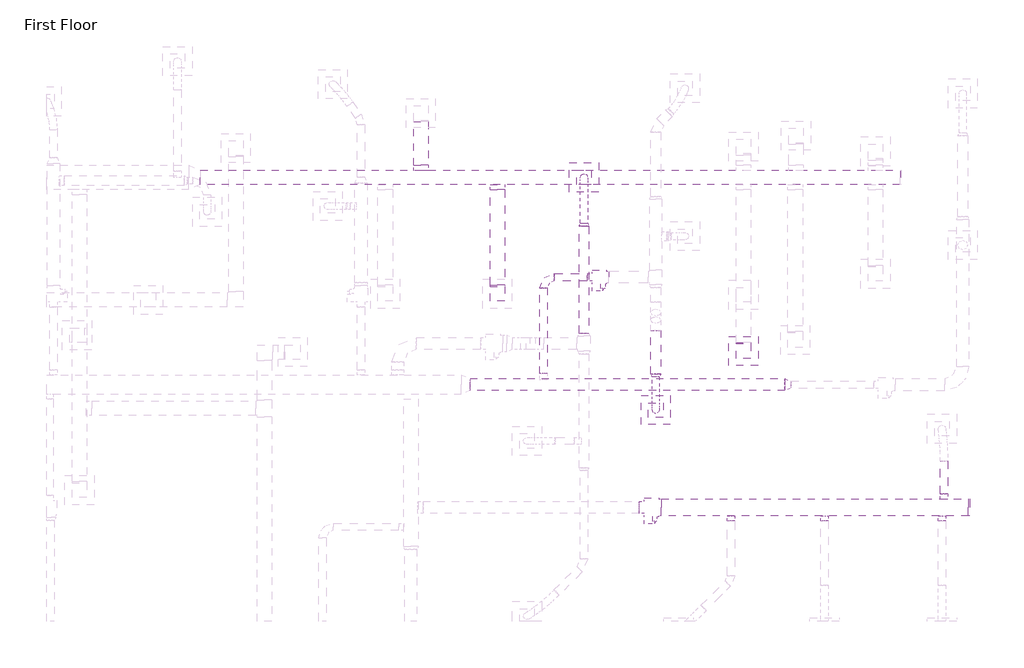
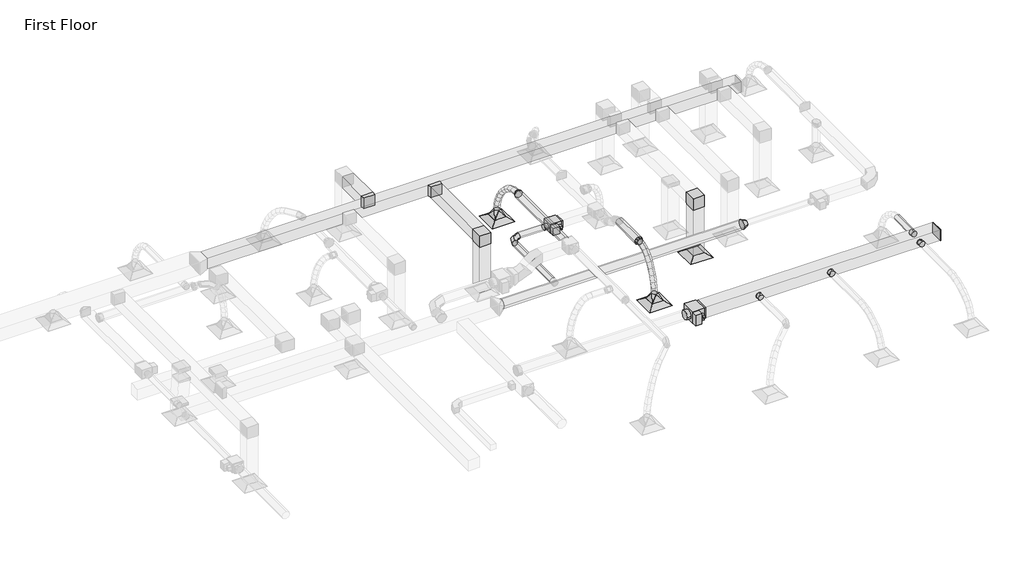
# One storey, part 56 of 61: 15 duct fittings, 14 duct segments, 3 air terminals, 2 proxies.
"""IFC4 building model written with IfcOpenShell, lengths in millimetres."""

from ifc_helpers import new_model, si_unit, point, frame, frame_2d, origin, place, context, project, spatial, polyline, circle_curve, ellipse_curve, trimmed, segment, composite_curve, outline, extrude, transform, mapped, element, save
from ifc_brep_helpers import plane_surface, cylinder_surface, advanced_brep
from components import m_exhaust_grill_er_600_x_600_face_300_x_300_connection_ff221211, m_vav_unit_single_duct_150_mm_ffdab17b, m_vav_unit_single_duct_250_mm_b14a1009, m_rectangular_elbow_mitered_standard_8eee5933, m_rectangular_endcap_standard_7e805889, m_rectangular_takeoff_standard_c00386d1, m_rectangular_takeoff_standard_b44bfa45, m_rectangular_to_round_transition_angle_45_degree_8f201c83, m_round_elbow_1_5_d_2e586196, m_round_takeoff_standard_d02f3bf7, m_round_takeoff_standard_2721f8a4, m_round_transition_angle_45_degree_6d7b59ce, m_round_transition_angle_45_degree_25573e05

model = new_model("IFC4")

# Units and contexts
model_context = context("Model", 3, world=origin())
ifc_project = project(units=[si_unit("LENGTHUNIT", "METRE", prefix="MILLI")], contexts=[model_context])

# Site, building, storey
site = spatial("IfcSite", under=ifc_project)
building = spatial("IfcBuilding", under=site)
storey = spatial("IfcBuildingStorey", under=building, Name="First Floor", Elevation=0.0)

# Air terminals
placement = place(None, origin())
m_exhaust_grill_er_600_x_600_face_300_x_300_connection_shape = m_exhaust_grill_er_600_x_600_face_300_x_300_connection_ff221211(model_context)
element("IfcAirTerminal", 1, ObjectType="M_Return Register : RR-600 x 600 Face 300 x 300 Connection", at=placement, inside=storey, context=model_context, shape_type="MappedRepresentation", body=[
    mapped(m_exhaust_grill_er_600_x_600_face_300_x_300_connection_shape, transform((-5002.6412206, 43647.3194717, 2680.0), x_axis=(1.0, 0.0, 0.0), y_axis=(0.0, 1.0, 0.0), z_axis=(0.0, 0.0, 1.0))),
])
element("IfcAirTerminal", 2, ObjectType="M_Supply Diffuser : SD-600 x 600 Face 300 x 300 Connection", at=placement, inside=storey, context=model_context, shape_type="MappedRepresentation", body=[
    mapped(m_exhaust_grill_er_600_x_600_face_300_x_300_connection_shape, transform((-8275.4155915, 47211.3321421, 2680.0), x_axis=(1.0, 0.0, 0.0), y_axis=(0.0, 1.0, 0.0), z_axis=(0.0, 0.0, 1.0))),
])
element("IfcAirTerminal", 3, ObjectType="M_Supply Diffuser : SD-600 x 600 Face 300 x 300 Connection", at=placement, inside=storey, context=model_context, shape_type="MappedRepresentation", body=[
    mapped(m_exhaust_grill_er_600_x_600_face_300_x_300_connection_shape, transform((-6801.5698472, 42433.4019538, 2680.0), x_axis=(1.0, 0.0, 0.0), y_axis=(0.0, 1.0, 0.0), z_axis=(0.0, 0.0, 1.0))),
])

# Proxies
m_vav_unit_single_duct_150_mm_shape = m_vav_unit_single_duct_150_mm_ffdab17b(model_context)
element("IfcBuildingElementProxy", 4, Name="M_VAV Unit - Single Duct : 150 mm", ObjectType="M_VAV Unit - Single Duct : 150 mm", at=placement, inside=storey, context=model_context, shape_type="MappedRepresentation", body=[
    mapped(m_vav_unit_single_duct_150_mm_shape, transform((-8106.698116, 45161.7292765, 3550.075), x_axis=(1.0, 0.0, 0.0), y_axis=(0.0, 1.0, 0.0), z_axis=(0.0, 0.0, 1.0))),
])
m_vav_unit_single_duct_250_mm_shape = m_vav_unit_single_duct_250_mm_b14a1009(model_context)
element("IfcBuildingElementProxy", 5, Name="M_VAV Unit - Single Duct : 250 mm", ObjectType="M_VAV Unit - Single Duct : 250 mm", at=placement, inside=storey, context=model_context, shape_type="MappedRepresentation", body=[
    mapped(m_vav_unit_single_duct_250_mm_shape, transform((-7043.846848, 40432.2504796, 3500.05), x_axis=(1.0, 0.0, 0.0), y_axis=(0.0, 1.0, 0.0), z_axis=(0.0, 0.0, 1.0))),
])

# Duct fittings
m_rectangular_elbow_mitered_standard_shape = m_rectangular_elbow_mitered_standard_8eee5933(model_context)
element("IfcDuctFitting", 6, ObjectType="M_Rectangular Elbow - Mitered : Standard", at=placement, inside=storey, context=model_context, shape_type="MappedRepresentation", body=[
    mapped(m_rectangular_elbow_mitered_standard_shape, transform((-5002.6412206, 43647.3194717, 4259.5), x_axis=(0.0, 0.0, 1.0), y_axis=(0.0, 1.0, 0.0), z_axis=(-1.0, 0.0, 0.0))),
])
element("IfcDuctFitting", 7, ObjectType="M_Rectangular Elbow - Mitered : Standard", at=placement, inside=storey, context=model_context, shape_type="MappedRepresentation", body=[
    mapped(m_rectangular_elbow_mitered_standard_shape, transform((-10054.3728287, 44823.6244525, 4259.5), x_axis=(0.0, 0.0, 1.0), y_axis=(0.0, 1.0, 0.0), z_axis=(-1.0, 0.0, 0.0))),
])
m_rectangular_endcap_standard_shape = m_rectangular_endcap_standard_7e805889(model_context)
element("IfcDuctFitting", 8, ObjectType="M_Rectangular Endcap : Standard", at=placement, inside=storey, context=model_context, shape_type="MappedRepresentation", body=[
    mapped(m_rectangular_endcap_standard_shape, transform((-388.046848, 40432.2504796, 3669.1), x_axis=(1.0, 0.0, 0.0), y_axis=(0.0, 1.0, 0.0), z_axis=(0.0, 0.0, 1.0))),
])
m_rectangular_takeoff_standard_shape = m_rectangular_takeoff_standard_c00386d1(model_context)
element("IfcDuctFitting", 9, ObjectType="M_Rectangular Takeoff : Standard", at=placement, inside=storey, context=model_context, shape_type="MappedRepresentation", body=[
    mapped(m_rectangular_takeoff_standard_shape, transform((-10054.3728287, 47061.3321421, 4259.5), x_axis=(0.0, -1.0, 0.0), y_axis=(-1.0, 0.0, 0.0), z_axis=(0.0, 0.0, -1.0))),
])
m_rectangular_takeoff_standard_2_shape = m_rectangular_takeoff_standard_b44bfa45(model_context)
element("IfcDuctFitting", 10, ObjectType="M_Rectangular Takeoff : Standard", at=placement, inside=storey, context=model_context, shape_type="MappedRepresentation", body=[
    mapped(m_rectangular_takeoff_standard_2_shape, transform((-11624.3125098, 47361.3321421, 4259.5), x_axis=(0.0, 1.0, 0.0), y_axis=(1.0, 0.0, 0.0), z_axis=(0.0, 0.0, -1.0))),
])
m_rectangular_to_round_transition_angle_45_degree_shape = m_rectangular_to_round_transition_angle_45_degree_8f201c83(model_context)
element("IfcDuctFitting", 11, ObjectType="M_Rectangular to Round Transition - Angle : 45 Degree", at=placement, inside=storey, context=model_context, shape_type="MappedRepresentation", body=[
    mapped(m_rectangular_to_round_transition_angle_45_degree_shape, transform((-6801.5698472, 42433.4019538, 2781.6), x_axis=(0.0, 0.0, 1.0), y_axis=(1.0, 0.0, 0.0), z_axis=(0.0, 1.0, 0.0))),
])
element("IfcDuctFitting", 12, ObjectType="M_Rectangular to Round Transition - Angle : 45 Degree", at=placement, inside=storey, context=model_context, shape_type="MappedRepresentation", body=[
    mapped(m_rectangular_to_round_transition_angle_45_degree_shape, transform((-8275.4155915, 47211.3321421, 2781.6), x_axis=(0.0, 0.0, 1.0), y_axis=(1.0, 0.0, 0.0), z_axis=(0.0, 1.0, 0.0))),
])
m_round_elbow_1_5_d_shape = m_round_elbow_1_5_d_2e586196(model_context)
element("IfcDuctFitting", 13, ObjectType="M_Round Elbow : 1.5 D", at=placement, inside=storey, context=model_context, shape_type="MappedRepresentation", body=[
    mapped(m_round_elbow_1_5_d_shape, transform((-9108.298116, 45162.5792765, 3659.6), x_axis=(-1.0, 0.0, 0.0), y_axis=(0.0, -1.0, 0.0), z_axis=(0.0, 0.0, 1.0))),
])
m_round_takeoff_standard_shape = m_round_takeoff_standard_d02f3bf7(model_context)
element("IfcDuctFitting", 14, ObjectType="M_Round Takeoff : Standard", at=placement, inside=storey, context=model_context, shape_type="MappedRepresentation", body=[
    mapped(m_round_takeoff_standard_shape, transform((-928.6121284, 40257.2504796, 3669.1), x_axis=(0.0, -1.0, 0.0), y_axis=(-1.0, 0.0, 0.0), z_axis=(0.0, 0.0, -1.0))),
])
element("IfcDuctFitting", 15, ObjectType="M_Round Takeoff : Standard", at=placement, inside=storey, context=model_context, shape_type="MappedRepresentation", body=[
    mapped(m_round_takeoff_standard_shape, transform((-3339.4452396, 40257.2504796, 3669.1), x_axis=(0.0, -1.0, 0.0), y_axis=(-1.0, 0.0, 0.0), z_axis=(0.0, 0.0, -1.0))),
])
element("IfcDuctFitting", 16, ObjectType="M_Round Takeoff : Standard", at=placement, inside=storey, context=model_context, shape_type="MappedRepresentation", body=[
    mapped(m_round_takeoff_standard_shape, transform((-5257.1128287, 40257.2504796, 3669.1), x_axis=(0.0, -1.0, 0.0), y_axis=(-1.0, 0.0, 0.0), z_axis=(0.0, 0.0, -1.0))),
])
m_round_takeoff_standard_2_shape = m_round_takeoff_standard_2721f8a4(model_context)
element("IfcDuctFitting", 17, ObjectType="M_Round Takeoff : Standard", at=placement, inside=storey, context=model_context, shape_type="MappedRepresentation", body=[
    mapped(m_round_takeoff_standard_2_shape, transform((-885.3869892, 40607.2504796, 3669.1), x_axis=(0.0, 1.0, 0.0), y_axis=(1.0, 0.0, 0.0), z_axis=(0.0, 0.0, -1.0))),
])
m_round_transition_angle_45_degree_shape = m_round_transition_angle_45_degree_6d7b59ce(model_context)
element("IfcDuctFitting", 18, ObjectType="M_Round Transition - Angle : 45 Degree", at=placement, inside=storey, context=model_context, shape_type="MappedRepresentation", body=[
    mapped(m_round_transition_angle_45_degree_shape, transform((-6801.5698472, 43174.9781212, 4000.0), x_axis=(0.0, -1.0, 0.0), y_axis=(1.0, 0.0, 0.0), z_axis=(0.0, 0.0, 1.0))),
])
element("IfcDuctFitting", 19, ObjectType="M_Round Transition - Angle : 45 Degree", at=placement, inside=storey, context=model_context, shape_type="MappedRepresentation", body=[
    mapped(m_round_transition_angle_45_degree_shape, transform((-8275.4155915, 46209.256062, 4000.0), x_axis=(0.0, 1.0, 0.0), y_axis=(-1.0, 0.0, 0.0), z_axis=(0.0, 0.0, 1.0))),
])
m_round_transition_angle_45_degree_2_shape = m_round_transition_angle_45_degree_25573e05(model_context)
element("IfcDuctFitting", 20, ObjectType="M_Round Transition - Angle : 45 Degree", at=placement, inside=storey, context=model_context, shape_type="MappedRepresentation", body=[
    mapped(m_round_transition_angle_45_degree_2_shape, transform((-4033.7936031, 42956.1720978, 3659.6), x_axis=(-1.0, 0.0, 0.0), y_axis=(0.0, -1.0, 0.0), z_axis=(0.0, 0.0, 1.0))),
])

# Duct segments
element("IfcDuctSegment", 21, ObjectType="Flex - Round", at=placement, inside=storey, context=model_context, shape_type="AdvancedBrep", body=[
    advanced_brep(
    [(-6726.5698472, 43114.6227822, 4000.0), (-6801.5698472, 43126.8999187, 3926.0116771), (-6876.5698472, 43114.6227822, 4000.0), (-6801.5698472, 43102.3456456, 4073.9883229), (-6726.5698472, 42982.310547, 3978.0449764), (-6801.5698472, 43006.0022195, 3905.9507067), (-6876.5698472, 42982.310547, 3978.0449764), (-6801.5698472, 42958.6188746, 4050.1392461), (-6726.5698472, 42433.4019538, 2962.6660172), (-6801.5698472, 42358.5717874, 2967.7104397), (-6876.5698472, 42433.4019538, 2962.6660172), (-6801.5698472, 42508.2321202, 2957.6215947), (-6726.5698472, 42861.8216867, 3916.7541211), (-6801.5698472, 42904.0879006, 3854.1084388), (-6876.5698472, 42861.8216867, 3916.7541211), (-6801.5698472, 42819.5554728, 3979.3998033), (-6726.5698472, 42754.1555797, 3822.9887576), (-6801.5698472, 42808.7463608, 3771.0764208), (-6876.5698472, 42754.1555797, 3822.9887576), (-6801.5698472, 42699.5647986, 3874.9010943), (-6726.5698472, 42660.3116045, 3703.6102093), (-6801.5698472, 42722.6771952, 3661.588177), (-6876.5698472, 42660.3116045, 3703.6102093), (-6801.5698472, 42597.9460138, 3745.6322416), (-6726.5698472, 42581.2891396, 3565.4797997), (-6801.5698472, 42648.6434047, 3532.1779159), (-6876.5698472, 42581.2891396, 3565.4797997), (-6801.5698472, 42513.9348746, 3598.7816836), (-6726.5698472, 42518.0875636, 3415.4588523), (-6801.5698472, 42588.7791652, 3390.0787709), (-6876.5698472, 42518.0875636, 3415.4588523), (-6801.5698472, 42447.395962, 3440.8389337), (-6726.5698472, 42471.706255, 3260.4086904), (-6801.5698472, 42544.7044975, 3242.7395827), (-6876.5698472, 42471.706255, 3260.4086904), (-6801.5698472, 42398.7080124, 3278.0777981), (-6726.5698472, 42443.1445922, 3107.1906376), (-6801.5698472, 42517.6793562, 3097.764146), (-6876.5698472, 42443.1445922, 3107.1906376), (-6801.5698472, 42368.6098282, 3116.6171291)],
    [
        (0, 1, circle_curve(frame((-6801.5698472, 43114.6227822, 4000.0), z_axis=(0.0, 0.9865109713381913, 0.16369515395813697), x_axis=(1.0, 0.0, 0.0)), 75.0)),
        (1, 2, circle_curve(frame((-6801.5698472, 43114.6227822, 4000.0), z_axis=(0.0, 0.9865109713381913, 0.16369515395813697), x_axis=(1.0, 0.0, 0.0)), 75.0)),
        (2, 3, circle_curve(frame((-6801.5698472, 43114.6227822, 4000.0), z_axis=(0.0, 0.9865109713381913, 0.16369515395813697), x_axis=(1.0, 0.0, 0.0)), 75.0)),
        (3, 0, circle_curve(frame((-6801.5698472, 43114.6227822, 4000.0), z_axis=(0.0, 0.9865109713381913, 0.16369515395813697), x_axis=(1.0, 0.0, 0.0)), 75.0)),
        (0, 4),
        (4, 5, ellipse_curve(frame((-6801.5698472, 42982.310547, 3978.0449764), z_axis=(0.0, 0.9500178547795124, 0.31219557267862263), x_axis=(0.0, 0.31219557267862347, -0.9500178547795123)), 75.8872787, 75.0)),
        (5, 1),
        (5, 6, ellipse_curve(frame((-6801.5698472, 42982.310547, 3978.0449764), z_axis=(0.0, 0.9500178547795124, 0.31219557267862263), x_axis=(0.0, 0.31219557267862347, -0.9500178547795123)), 75.8872787, 75.0)),
        (6, 2),
        (6, 7, ellipse_curve(frame((-6801.5698472, 42982.310547, 3978.0449764), z_axis=(0.0, 0.9500178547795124, 0.31219557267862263), x_axis=(0.0, 0.31219557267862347, -0.9500178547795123)), 75.8872787, 75.0)),
        (7, 3),
        (7, 4, ellipse_curve(frame((-6801.5698472, 42982.310547, 3978.0449764), z_axis=(0.0, 0.9500178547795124, 0.31219557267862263), x_axis=(0.0, 0.31219557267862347, -0.9500178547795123)), 75.8872787, 75.0)),
        (8, 9, circle_curve(frame((-6801.5698472, 42433.4019538, 2962.6660172), z_axis=(0.0, -0.06725896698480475, -0.9977355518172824), x_axis=(1.0, 0.0, 0.0)), 75.0)),
        (9, 10, circle_curve(frame((-6801.5698472, 42433.4019538, 2962.6660172), z_axis=(0.0, -0.06725896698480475, -0.9977355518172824), x_axis=(1.0, 0.0, 0.0)), 75.0)),
        (10, 11, circle_curve(frame((-6801.5698472, 42433.4019538, 2962.6660172), z_axis=(0.0, -0.06725896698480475, -0.9977355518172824), x_axis=(1.0, 0.0, 0.0)), 75.0)),
        (11, 8, circle_curve(frame((-6801.5698472, 42433.4019538, 2962.6660172), z_axis=(0.0, -0.06725896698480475, -0.9977355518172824), x_axis=(1.0, 0.0, 0.0)), 75.0)),
        (4, 12),
        (12, 13, ellipse_curve(frame((-6801.5698472, 42861.8216867, 3916.7541211), z_axis=(0.0, 0.8289690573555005, 0.5592944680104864), x_axis=(0.0, 0.5592944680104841, -0.8289690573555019)), 75.5705918, 75.0)),
        (13, 5),
        (13, 14, ellipse_curve(frame((-6801.5698472, 42861.8216867, 3916.7541211), z_axis=(0.0, 0.8289690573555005, 0.5592944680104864), x_axis=(0.0, 0.5592944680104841, -0.8289690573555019)), 75.5705918, 75.0)),
        (14, 6),
        (14, 15, ellipse_curve(frame((-6801.5698472, 42861.8216867, 3916.7541211), z_axis=(0.0, 0.8289690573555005, 0.5592944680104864), x_axis=(0.0, 0.5592944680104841, -0.8289690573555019)), 75.5705918, 75.0)),
        (15, 7),
        (15, 12, ellipse_curve(frame((-6801.5698472, 42861.8216867, 3916.7541211), z_axis=(0.0, 0.8289690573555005, 0.5592944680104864), x_axis=(0.0, 0.5592944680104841, -0.8289690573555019)), 75.5705918, 75.0)),
        (12, 16),
        (16, 17, ellipse_curve(frame((-6801.5698472, 42754.1555797, 3822.9887576), z_axis=(0.0, 0.6891058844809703, 0.7246606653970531), x_axis=(0.0, 0.7246606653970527, -0.6891058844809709)), 75.3328885, 75.0)),
        (17, 13),
        (17, 18, ellipse_curve(frame((-6801.5698472, 42754.1555797, 3822.9887576), z_axis=(0.0, 0.6891058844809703, 0.7246606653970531), x_axis=(0.0, 0.7246606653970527, -0.6891058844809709)), 75.3328885, 75.0)),
        (18, 14),
        (18, 19, ellipse_curve(frame((-6801.5698472, 42754.1555797, 3822.9887576), z_axis=(0.0, 0.6891058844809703, 0.7246606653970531), x_axis=(0.0, 0.7246606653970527, -0.6891058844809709)), 75.3328885, 75.0)),
        (19, 15),
        (19, 16, ellipse_curve(frame((-6801.5698472, 42754.1555797, 3822.9887576), z_axis=(0.0, 0.6891058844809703, 0.7246606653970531), x_axis=(0.0, 0.7246606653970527, -0.6891058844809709)), 75.3328885, 75.0)),
        (16, 20),
        (20, 21, ellipse_curve(frame((-6801.5698472, 42660.3116045, 3703.6102093), z_axis=(0.0, 0.5587898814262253, 0.8293092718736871), x_axis=(0.0, 0.8293092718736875, -0.5587898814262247)), 75.2018491, 75.0)),
        (21, 17),
        (21, 22, ellipse_curve(frame((-6801.5698472, 42660.3116045, 3703.6102093), z_axis=(0.0, 0.5587898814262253, 0.8293092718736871), x_axis=(0.0, 0.8293092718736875, -0.5587898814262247)), 75.2018491, 75.0)),
        (22, 18),
        (22, 23, ellipse_curve(frame((-6801.5698472, 42660.3116045, 3703.6102093), z_axis=(0.0, 0.5587898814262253, 0.8293092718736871), x_axis=(0.0, 0.8293092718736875, -0.5587898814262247)), 75.2018491, 75.0)),
        (23, 19),
        (23, 20, ellipse_curve(frame((-6801.5698472, 42660.3116045, 3703.6102093), z_axis=(0.0, 0.5587898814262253, 0.8293092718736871), x_axis=(0.0, 0.8293092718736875, -0.5587898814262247)), 75.2018491, 75.0)),
        (20, 24),
        (24, 25, ellipse_curve(frame((-6801.5698472, 42581.2891396, 3565.4797997), z_axis=(0.0, 0.44321379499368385, 0.8964159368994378), x_axis=(0.0, 0.8964159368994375, -0.4432137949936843)), 75.1372909, 75.0)),
        (25, 21),
        (25, 26, ellipse_curve(frame((-6801.5698472, 42581.2891396, 3565.4797997), z_axis=(0.0, 0.44321379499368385, 0.8964159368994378), x_axis=(0.0, 0.8964159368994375, -0.4432137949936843)), 75.1372909, 75.0)),
        (26, 22),
        (26, 27, ellipse_curve(frame((-6801.5698472, 42581.2891396, 3565.4797997), z_axis=(0.0, 0.44321379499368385, 0.8964159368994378), x_axis=(0.0, 0.8964159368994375, -0.4432137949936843)), 75.1372909, 75.0)),
        (27, 23),
        (27, 24, ellipse_curve(frame((-6801.5698472, 42581.2891396, 3565.4797997), z_axis=(0.0, 0.44321379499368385, 0.8964159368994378), x_axis=(0.0, 0.8964159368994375, -0.4432137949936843)), 75.1372909, 75.0)),
        (24, 28),
        (28, 29, ellipse_curve(frame((-6801.5698472, 42518.0875636, 3415.4588523), z_axis=(0.0, 0.33790731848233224, 0.941179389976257), x_axis=(0.0, 0.9411793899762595, -0.3379073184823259)), 75.1095938, 75.0)),
        (29, 25),
        (29, 30, ellipse_curve(frame((-6801.5698472, 42518.0875636, 3415.4588523), z_axis=(0.0, 0.33790731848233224, 0.941179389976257), x_axis=(0.0, 0.9411793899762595, -0.3379073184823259)), 75.1095938, 75.0)),
        (30, 26),
        (30, 31, ellipse_curve(frame((-6801.5698472, 42518.0875636, 3415.4588523), z_axis=(0.0, 0.33790731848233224, 0.941179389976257), x_axis=(0.0, 0.9411793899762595, -0.3379073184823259)), 75.1095938, 75.0)),
        (31, 27),
        (31, 28, ellipse_curve(frame((-6801.5698472, 42518.0875636, 3415.4588523), z_axis=(0.0, 0.33790731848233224, 0.941179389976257), x_axis=(0.0, 0.9411793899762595, -0.3379073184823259)), 75.1095938, 75.0)),
        (28, 32),
        (32, 33, ellipse_curve(frame((-6801.5698472, 42471.706255, 3260.4086904), z_axis=(0.0, 0.23525499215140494, 0.9719336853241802), x_axis=(0.0, 0.9719336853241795, -0.23525499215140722)), 75.1061967, 75.0)),
        (33, 29),
        (33, 34, ellipse_curve(frame((-6801.5698472, 42471.706255, 3260.4086904), z_axis=(0.0, 0.23525499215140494, 0.9719336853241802), x_axis=(0.0, 0.9719336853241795, -0.23525499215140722)), 75.1061967, 75.0)),
        (34, 30),
        (34, 35, ellipse_curve(frame((-6801.5698472, 42471.706255, 3260.4086904), z_axis=(0.0, 0.23525499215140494, 0.9719336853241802), x_axis=(0.0, 0.9719336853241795, -0.23525499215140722)), 75.1061967, 75.0)),
        (35, 31),
        (35, 32, ellipse_curve(frame((-6801.5698472, 42471.706255, 3260.4086904), z_axis=(0.0, 0.23525499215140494, 0.9719336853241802), x_axis=(0.0, 0.9719336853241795, -0.23525499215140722)), 75.1061967, 75.0)),
        (32, 36),
        (36, 37, ellipse_curve(frame((-6801.5698472, 42443.1445922, 3107.1906376), z_axis=(0.0, 0.12547159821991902, 0.9920972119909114), x_axis=(0.0, 0.9920972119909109, -0.12547159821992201)), 75.1284885, 75.0)),
        (37, 33),
        (37, 38, ellipse_curve(frame((-6801.5698472, 42443.1445922, 3107.1906376), z_axis=(0.0, 0.12547159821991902, 0.9920972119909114), x_axis=(0.0, 0.9920972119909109, -0.12547159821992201)), 75.1284885, 75.0)),
        (38, 34),
        (38, 39, ellipse_curve(frame((-6801.5698472, 42443.1445922, 3107.1906376), z_axis=(0.0, 0.12547159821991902, 0.9920972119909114), x_axis=(0.0, 0.9920972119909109, -0.12547159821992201)), 75.1284885, 75.0)),
        (39, 35),
        (39, 36, ellipse_curve(frame((-6801.5698472, 42443.1445922, 3107.1906376), z_axis=(0.0, 0.12547159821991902, 0.9920972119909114), x_axis=(0.0, 0.9920972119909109, -0.12547159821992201)), 75.1284885, 75.0)),
        (36, 8),
        (11, 37),
        (10, 38),
        (9, 39),
    ],
    [
        plane_surface(frame((-6801.5698472, 43126.8999187, 3926.0116771), z_axis=(0.0, 0.9865109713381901, 0.16369515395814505), x_axis=(1.0, 0.0, 0.0))),
        cylinder_surface(frame((-6801.5698472, 43114.6227822, 4000.0), z_axis=(0.0, 0.9865109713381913, 0.16369515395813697), x_axis=(1.0, 0.0, 0.0)), 75.0),
        plane_surface(frame((-6801.5698472, 42508.2321202, 2957.6215947), z_axis=(0.0, -0.06725896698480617, -0.9977355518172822), x_axis=(1.0, 0.0, 0.0))),
        cylinder_surface(frame((-6801.5698472, 42982.310547, 3978.0449764), z_axis=(0.0, 0.8913094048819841, 0.45339557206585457), x_axis=(1.0, 0.0, 0.0)), 75.0),
        cylinder_surface(frame((-6801.5698472, 42861.8216867, 3916.7541211), z_axis=(0.0, 0.7541105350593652, 0.6567475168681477), x_axis=(1.0, 0.0, 0.0)), 75.0),
        cylinder_surface(frame((-6801.5698472, 42754.1555797, 3822.9887576), z_axis=(0.0, 0.6180110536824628, 0.7861694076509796), x_axis=(1.0, 0.0, 0.0)), 75.0),
        cylinder_surface(frame((-6801.5698472, 42660.3116045, 3703.6102093), z_axis=(0.0, 0.4965690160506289, 0.8679972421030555), x_axis=(1.0, 0.0, 0.0)), 75.0),
        cylinder_surface(frame((-6801.5698472, 42581.2891396, 3565.4797997), z_axis=(0.0, 0.38823889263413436, 0.9215587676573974), x_axis=(1.0, 0.0, 0.0)), 75.0),
        cylinder_surface(frame((-6801.5698472, 42518.0875636, 3415.4588523), z_axis=(0.0, 0.2865896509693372, 0.9580534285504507), x_axis=(1.0, 0.0, 0.0)), 75.0),
        cylinder_surface(frame((-6801.5698472, 42471.706255, 3260.4086904), z_axis=(0.0, 0.18325505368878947, 0.9830654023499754), x_axis=(1.0, 0.0, 0.0)), 75.0),
        cylinder_surface(frame((-6801.5698472, 42443.1445922, 3107.1906376), z_axis=(0.0, 0.06725896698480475, 0.9977355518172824), x_axis=(1.0, 0.0, 0.0)), 75.0),
    ],
    [
        (0, [[1, 2, 3, 4]]),
        (1, [[-1, 5, 6, 7]]),
        (1, [[-2, -7, 8, 9]]),
        (1, [[-3, -9, 10, 11]]),
        (1, [[-4, -11, 12, -5]]),
        (2, [[13, 14, 15, 16]]),
        (3, [[-6, 17, 18, 19]]),
        (3, [[-8, -19, 20, 21]]),
        (3, [[-10, -21, 22, 23]]),
        (3, [[-12, -23, 24, -17]]),
        (4, [[-18, 25, 26, 27]]),
        (4, [[-20, -27, 28, 29]]),
        (4, [[-22, -29, 30, 31]]),
        (4, [[-24, -31, 32, -25]]),
        (5, [[-26, 33, 34, 35]]),
        (5, [[-28, -35, 36, 37]]),
        (5, [[-30, -37, 38, 39]]),
        (5, [[-32, -39, 40, -33]]),
        (6, [[-34, 41, 42, 43]]),
        (6, [[-36, -43, 44, 45]]),
        (6, [[-38, -45, 46, 47]]),
        (6, [[-40, -47, 48, -41]]),
        (7, [[-42, 49, 50, 51]]),
        (7, [[-44, -51, 52, 53]]),
        (7, [[-46, -53, 54, 55]]),
        (7, [[-48, -55, 56, -49]]),
        (8, [[-50, 57, 58, 59]]),
        (8, [[-52, -59, 60, 61]]),
        (8, [[-54, -61, 62, 63]]),
        (8, [[-56, -63, 64, -57]]),
        (9, [[-58, 65, 66, 67]]),
        (9, [[-60, -67, 68, 69]]),
        (9, [[-62, -69, 70, 71]]),
        (9, [[-64, -71, 72, -65]]),
        (10, [[-66, 73, -16, 74]]),
        (10, [[-68, -74, -15, 75]]),
        (10, [[-70, -75, -14, 76]]),
        (10, [[-72, -76, -13, -73]]),
    ],
),
])
element("IfcDuctSegment", 22, ObjectType="Flex - Round", at=placement, inside=storey, context=model_context, shape_type="AdvancedBrep", body=[
    advanced_brep(
    [(-8350.4155915, 46269.611401, 4000.0), (-8275.4155915, 46259.9376796, 3925.6264892), (-8200.4155915, 46269.611401, 4000.0), (-8275.4155915, 46279.2851225, 4074.3735108), (-8350.4155915, 46424.9053296, 3979.8010046), (-8275.4155915, 46406.6752349, 3906.5404165), (-8200.4155915, 46424.9053296, 3979.8010046), (-8275.4155915, 46443.1354244, 4053.0615927), (-8350.4155915, 47211.3321421, 2962.6660172), (-8275.4155915, 47285.9088023, 2970.6235137), (-8200.4155915, 47211.3321421, 2962.6660172), (-8275.4155915, 47136.7554819, 2954.7085206), (-8350.4155915, 46576.7990029, 3922.9002199), (-8275.4155915, 46543.8388469, 3855.15765), (-8200.4155915, 46576.7990029, 3922.9002199), (-8275.4155915, 46609.759159, 3990.6427899), (-8350.4155915, 46721.3219992, 3834.8419482), (-8275.4155915, 46677.1855986, 3773.9090958), (-8200.4155915, 46721.3219992, 3834.8419482), (-8275.4155915, 46765.4583999, 3895.7748006), (-8350.4155915, 46854.5038967, 3721.1704918), (-8275.4155915, 46801.7610807, 3667.5832606), (-8200.4155915, 46854.5038967, 3721.1704918), (-8275.4155915, 46907.2467128, 3774.7577229), (-8350.4155915, 46972.3742738, 3587.4301528), (-8275.4155915, 46912.7408587, 3541.6612647), (-8200.4155915, 46972.3742738, 3587.4301528), (-8275.4155915, 47032.0076888, 3633.1990409), (-8350.4155915, 47070.9627086, 3439.1652336), (-8275.4155915, 47005.5972063, 3402.0167018), (-8200.4155915, 47070.9627086, 3439.1652336), (-8275.4155915, 47136.3282108, 3476.3137653), (-8350.4155915, 47146.2987794, 3281.9200364), (-8275.4155915, 47076.1304797, 3254.7961426), (-8200.4155915, 47146.2987794, 3281.9200364), (-8275.4155915, 47216.467079, 3309.0439302), (-8350.4155915, 47194.4120645, 3121.2388635), (-8275.4155915, 47120.5721214, 3106.3769461), (-8200.4155915, 47194.4120645, 3121.2388635), (-8275.4155915, 47268.2520075, 3136.100781)],
    [
        (0, 1, circle_curve(frame((-8275.4155915, 46269.611401, 4000.0), z_axis=(0.0, -0.9916468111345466, 0.12898295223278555), x_axis=(-1.0, 0.0, 0.0)), 75.0)),
        (1, 2, circle_curve(frame((-8275.4155915, 46269.611401, 4000.0), z_axis=(0.0, -0.9916468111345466, 0.12898295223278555), x_axis=(-1.0, 0.0, 0.0)), 75.0)),
        (2, 3, circle_curve(frame((-8275.4155915, 46269.611401, 4000.0), z_axis=(0.0, -0.9916468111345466, 0.12898295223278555), x_axis=(-1.0, 0.0, 0.0)), 75.0)),
        (3, 0, circle_curve(frame((-8275.4155915, 46269.611401, 4000.0), z_axis=(0.0, -0.9916468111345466, 0.12898295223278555), x_axis=(-1.0, 0.0, 0.0)), 75.0)),
        (0, 4),
        (4, 5, ellipse_curve(frame((-8275.4155915, 46424.9053296, 3979.8010046), z_axis=(0.0, -0.9704070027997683, 0.24147515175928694), x_axis=(0.0, -0.24147515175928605, -0.9704070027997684)), 75.4947026, 75.0)),
        (5, 1),
        (5, 6, ellipse_curve(frame((-8275.4155915, 46424.9053296, 3979.8010046), z_axis=(0.0, -0.9704070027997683, 0.24147515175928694), x_axis=(0.0, -0.24147515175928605, -0.9704070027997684)), 75.4947026, 75.0)),
        (6, 2),
        (6, 7, ellipse_curve(frame((-8275.4155915, 46424.9053296, 3979.8010046), z_axis=(0.0, -0.9704070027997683, 0.24147515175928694), x_axis=(0.0, -0.24147515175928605, -0.9704070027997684)), 75.4947026, 75.0)),
        (7, 3),
        (7, 4, ellipse_curve(frame((-8275.4155915, 46424.9053296, 3979.8010046), z_axis=(0.0, -0.9704070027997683, 0.24147515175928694), x_axis=(0.0, -0.24147515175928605, -0.9704070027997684)), 75.4947026, 75.0)),
        (8, 9, circle_curve(frame((-8275.4155915, 47211.3321421, 2962.6660172), z_axis=(0.0, 0.10609995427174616, -0.9943554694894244), x_axis=(-1.0, 0.0, 0.0)), 75.0)),
        (9, 10, circle_curve(frame((-8275.4155915, 47211.3321421, 2962.6660172), z_axis=(0.0, 0.10609995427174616, -0.9943554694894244), x_axis=(-1.0, 0.0, 0.0)), 75.0)),
        (10, 11, circle_curve(frame((-8275.4155915, 47211.3321421, 2962.6660172), z_axis=(0.0, 0.10609995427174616, -0.9943554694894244), x_axis=(-1.0, 0.0, 0.0)), 75.0)),
        (11, 8, circle_curve(frame((-8275.4155915, 47211.3321421, 2962.6660172), z_axis=(0.0, 0.10609995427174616, -0.9943554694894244), x_axis=(-1.0, 0.0, 0.0)), 75.0)),
        (4, 12),
        (12, 13, ellipse_curve(frame((-8275.4155915, 46576.7990029, 3922.9002199), z_axis=(0.0, -0.8992125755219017, 0.4375119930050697), x_axis=(0.0, -0.43751199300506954, -0.8992125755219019)), 75.3354344, 75.0)),
        (13, 5),
        (13, 14, ellipse_curve(frame((-8275.4155915, 46576.7990029, 3922.9002199), z_axis=(0.0, -0.8992125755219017, 0.4375119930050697), x_axis=(0.0, -0.43751199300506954, -0.8992125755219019)), 75.3354344, 75.0)),
        (14, 6),
        (14, 15, ellipse_curve(frame((-8275.4155915, 46576.7990029, 3922.9002199), z_axis=(0.0, -0.8992125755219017, 0.4375119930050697), x_axis=(0.0, -0.43751199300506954, -0.8992125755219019)), 75.3354344, 75.0)),
        (15, 7),
        (15, 12, ellipse_curve(frame((-8275.4155915, 46576.7990029, 3922.9002199), z_axis=(0.0, -0.8992125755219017, 0.4375119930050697), x_axis=(0.0, -0.43751199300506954, -0.8992125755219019)), 75.3354344, 75.0)),
        (12, 16),
        (16, 17, ellipse_curve(frame((-8275.4155915, 46721.3219992, 3834.8419482), z_axis=(0.0, -0.8098624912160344, 0.5866197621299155), x_axis=(0.0, -0.5866197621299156, -0.8098624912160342)), 75.2385165, 75.0)),
        (17, 13),
        (17, 18, ellipse_curve(frame((-8275.4155915, 46721.3219992, 3834.8419482), z_axis=(0.0, -0.8098624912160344, 0.5866197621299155), x_axis=(0.0, -0.5866197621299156, -0.8098624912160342)), 75.2385165, 75.0)),
        (18, 14),
        (18, 19, ellipse_curve(frame((-8275.4155915, 46721.3219992, 3834.8419482), z_axis=(0.0, -0.8098624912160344, 0.5866197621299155), x_axis=(0.0, -0.5866197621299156, -0.8098624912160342)), 75.2385165, 75.0)),
        (19, 15),
        (19, 16, ellipse_curve(frame((-8275.4155915, 46721.3219992, 3834.8419482), z_axis=(0.0, -0.8098624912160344, 0.5866197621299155), x_axis=(0.0, -0.5866197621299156, -0.8098624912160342)), 75.2385165, 75.0)),
        (16, 20),
        (20, 21, ellipse_curve(frame((-8275.4155915, 46854.5038967, 3721.1704918), z_axis=(0.0, -0.712699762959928, 0.7014692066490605), x_axis=(0.0, -0.7014692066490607, -0.7126997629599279)), 75.1890683, 75.0)),
        (21, 17),
        (21, 22, ellipse_curve(frame((-8275.4155915, 46854.5038967, 3721.1704918), z_axis=(0.0, -0.712699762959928, 0.7014692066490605), x_axis=(0.0, -0.7014692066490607, -0.7126997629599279)), 75.1890683, 75.0)),
        (22, 18),
        (22, 23, ellipse_curve(frame((-8275.4155915, 46854.5038967, 3721.1704918), z_axis=(0.0, -0.712699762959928, 0.7014692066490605), x_axis=(0.0, -0.7014692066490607, -0.7126997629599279)), 75.1890683, 75.0)),
        (23, 19),
        (23, 20, ellipse_curve(frame((-8275.4155915, 46854.5038967, 3721.1704918), z_axis=(0.0, -0.712699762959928, 0.7014692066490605), x_axis=(0.0, -0.7014692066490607, -0.7126997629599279)), 75.1890683, 75.0)),
        (20, 24),
        (24, 25, ellipse_curve(frame((-8275.4155915, 46972.3742738, 3587.4301528), z_axis=(0.0, -0.6088498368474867, 0.7932854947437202), x_axis=(0.0, -0.793285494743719, -0.6088498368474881)), 75.1727032, 75.0)),
        (25, 21),
        (25, 26, ellipse_curve(frame((-8275.4155915, 46972.3742738, 3587.4301528), z_axis=(0.0, -0.6088498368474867, 0.7932854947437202), x_axis=(0.0, -0.793285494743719, -0.6088498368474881)), 75.1727032, 75.0)),
        (26, 22),
        (26, 27, ellipse_curve(frame((-8275.4155915, 46972.3742738, 3587.4301528), z_axis=(0.0, -0.6088498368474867, 0.7932854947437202), x_axis=(0.0, -0.793285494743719, -0.6088498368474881)), 75.1727032, 75.0)),
        (27, 23),
        (27, 24, ellipse_curve(frame((-8275.4155915, 46972.3742738, 3587.4301528), z_axis=(0.0, -0.6088498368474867, 0.7932854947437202), x_axis=(0.0, -0.793285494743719, -0.6088498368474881)), 75.1727032, 75.0)),
        (24, 28),
        (28, 29, ellipse_curve(frame((-8275.4155915, 47070.9627086, 3439.1652336), z_axis=(0.0, -0.49410031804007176, 0.8694048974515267), x_axis=(0.0, -0.8694048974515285, -0.49410031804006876)), 75.1841891, 75.0)),
        (29, 25),
        (29, 30, ellipse_curve(frame((-8275.4155915, 47070.9627086, 3439.1652336), z_axis=(0.0, -0.49410031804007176, 0.8694048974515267), x_axis=(0.0, -0.8694048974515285, -0.49410031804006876)), 75.1841891, 75.0)),
        (30, 26),
        (30, 31, ellipse_curve(frame((-8275.4155915, 47070.9627086, 3439.1652336), z_axis=(0.0, -0.49410031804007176, 0.8694048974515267), x_axis=(0.0, -0.8694048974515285, -0.49410031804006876)), 75.1841891, 75.0)),
        (31, 27),
        (31, 28, ellipse_curve(frame((-8275.4155915, 47070.9627086, 3439.1652336), z_axis=(0.0, -0.49410031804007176, 0.8694048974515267), x_axis=(0.0, -0.8694048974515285, -0.49410031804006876)), 75.1841891, 75.0)),
        (28, 32),
        (32, 33, ellipse_curve(frame((-8275.4155915, 47146.2987794, 3281.9200364), z_axis=(0.0, -0.3605544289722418, 0.9327381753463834), x_axis=(0.0, -0.9327381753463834, -0.36055442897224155)), 75.2282918, 75.0)),
        (33, 29),
        (33, 34, ellipse_curve(frame((-8275.4155915, 47146.2987794, 3281.9200364), z_axis=(0.0, -0.3605544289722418, 0.9327381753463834), x_axis=(0.0, -0.9327381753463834, -0.36055442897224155)), 75.2282918, 75.0)),
        (34, 30),
        (34, 35, ellipse_curve(frame((-8275.4155915, 47146.2987794, 3281.9200364), z_axis=(0.0, -0.3605544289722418, 0.9327381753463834), x_axis=(0.0, -0.9327381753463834, -0.36055442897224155)), 75.2282918, 75.0)),
        (35, 31),
        (35, 32, ellipse_curve(frame((-8275.4155915, 47146.2987794, 3281.9200364), z_axis=(0.0, -0.3605544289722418, 0.9327381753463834), x_axis=(0.0, -0.9327381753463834, -0.36055442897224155)), 75.2282918, 75.0)),
        (32, 36),
        (36, 37, ellipse_curve(frame((-8275.4155915, 47194.4120645, 3121.2388635), z_axis=(0.0, -0.1973150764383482, 0.9803401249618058), x_axis=(0.0, -0.9803401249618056, -0.19731507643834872)), 75.3207394, 75.0)),
        (37, 33),
        (37, 38, ellipse_curve(frame((-8275.4155915, 47194.4120645, 3121.2388635), z_axis=(0.0, -0.1973150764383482, 0.9803401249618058), x_axis=(0.0, -0.9803401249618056, -0.19731507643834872)), 75.3207394, 75.0)),
        (38, 34),
        (38, 39, ellipse_curve(frame((-8275.4155915, 47194.4120645, 3121.2388635), z_axis=(0.0, -0.1973150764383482, 0.9803401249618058), x_axis=(0.0, -0.9803401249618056, -0.19731507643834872)), 75.3207394, 75.0)),
        (39, 35),
        (39, 36, ellipse_curve(frame((-8275.4155915, 47194.4120645, 3121.2388635), z_axis=(0.0, -0.1973150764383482, 0.9803401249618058), x_axis=(0.0, -0.9803401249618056, -0.19731507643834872)), 75.3207394, 75.0)),
        (36, 8),
        (11, 37),
        (10, 38),
        (9, 39),
    ],
    [
        plane_surface(frame((-8275.4155915, 46279.2851225, 4074.3735108), z_axis=(0.0, -0.9916468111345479, 0.12898295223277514), x_axis=(1.0, 0.0, 0.0))),
        cylinder_surface(frame((-8275.4155915, 46269.611401, 4000.0), z_axis=(0.0, -0.9916468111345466, 0.12898295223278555), x_axis=(-1.0, 0.0, 0.0)), 75.0),
        plane_surface(frame((-8275.4155915, 47285.9088023, 2970.6235137), z_axis=(0.0, 0.10609995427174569, -0.9943554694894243), x_axis=(1.0, 0.0, 0.0))),
        cylinder_surface(frame((-8275.4155915, 46424.9053296, 3979.8010046), z_axis=(0.0, -0.9364494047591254, 0.3508026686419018), x_axis=(-1.0, 0.0, 0.0)), 75.0),
        cylinder_surface(frame((-8275.4155915, 46576.7990029, 3922.9002199), z_axis=(0.0, -0.8539681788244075, 0.5203252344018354), x_axis=(-1.0, 0.0, 0.0)), 75.0),
        cylinder_surface(frame((-8275.4155915, 46721.3219992, 3834.8419482), z_axis=(0.0, -0.7606220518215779, 0.6491949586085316), x_axis=(-1.0, 0.0, 0.0)), 75.0),
        cylinder_surface(frame((-8275.4155915, 46854.5038967, 3721.1704918), z_axis=(0.0, -0.6611932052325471, 0.7502156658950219), x_axis=(-1.0, 0.0, 0.0)), 75.0),
        cylinder_surface(frame((-8275.4155915, 46972.3742738, 3587.4301528), z_axis=(0.0, -0.5537089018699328, 0.8327103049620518), x_axis=(-1.0, 0.0, 0.0)), 75.0),
        cylinder_surface(frame((-8275.4155915, 47070.9627086, 3439.1652336), z_axis=(0.0, -0.432070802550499, 0.9018396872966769), x_axis=(-1.0, 0.0, 0.0)), 75.0),
        cylinder_surface(frame((-8275.4155915, 47146.2987794, 3281.9200364), z_axis=(0.0, -0.2868497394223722, 0.957975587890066), x_axis=(-1.0, 0.0, 0.0)), 75.0),
        cylinder_surface(frame((-8275.4155915, 47194.4120645, 3121.2388635), z_axis=(0.0, -0.10609995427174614, 0.9943554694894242), x_axis=(-1.0, 0.0, 0.0)), 75.0),
    ],
    [
        (0, [[1, 2, 3, 4]]),
        (1, [[-1, 5, 6, 7]]),
        (1, [[-2, -7, 8, 9]]),
        (1, [[-3, -9, 10, 11]]),
        (1, [[-4, -11, 12, -5]]),
        (2, [[13, 14, 15, 16]]),
        (3, [[-6, 17, 18, 19]]),
        (3, [[-8, -19, 20, 21]]),
        (3, [[-10, -21, 22, 23]]),
        (3, [[-12, -23, 24, -17]]),
        (4, [[-18, 25, 26, 27]]),
        (4, [[-20, -27, 28, 29]]),
        (4, [[-22, -29, 30, 31]]),
        (4, [[-24, -31, 32, -25]]),
        (5, [[-26, 33, 34, 35]]),
        (5, [[-28, -35, 36, 37]]),
        (5, [[-30, -37, 38, 39]]),
        (5, [[-32, -39, 40, -33]]),
        (6, [[-34, 41, 42, 43]]),
        (6, [[-36, -43, 44, 45]]),
        (6, [[-38, -45, 46, 47]]),
        (6, [[-40, -47, 48, -41]]),
        (7, [[-42, 49, 50, 51]]),
        (7, [[-44, -51, 52, 53]]),
        (7, [[-46, -53, 54, 55]]),
        (7, [[-48, -55, 56, -49]]),
        (8, [[-50, 57, 58, 59]]),
        (8, [[-52, -59, 60, 61]]),
        (8, [[-54, -61, 62, 63]]),
        (8, [[-56, -63, 64, -57]]),
        (9, [[-58, 65, 66, 67]]),
        (9, [[-60, -67, 68, 69]]),
        (9, [[-62, -69, 70, 71]]),
        (9, [[-64, -71, 72, -65]]),
        (10, [[-66, 73, -16, 74]]),
        (10, [[-68, -74, -15, 75]]),
        (10, [[-70, -75, -14, 76]]),
        (10, [[-72, -76, -13, -73]]),
    ],
),
])
element("IfcDuctSegment", 23, ObjectType="Mitered Elbows / Taps", at=placement, inside=storey, context=model_context, shape_type="SweptSolid", body=[
    extrude(outline(polyline([(-5152.6412206, 43797.3194717), (-4852.6412206, 43797.3194717), (-4852.6412206, 43497.3194717), (-5152.6412206, 43497.3194717), (-5152.6412206, 43797.3194717)])), frame((0.0, 0.0, 2781.6), z_axis=(0.0, 0.0, 1.0), x_axis=(1.0, 0.0, 0.0)), (0.0, 0.0, 1.0), 1302.9),
])
element("IfcDuctSegment", 24, ObjectType="Mitered Elbows / Taps", at=placement, inside=storey, context=model_context, shape_type="SweptSolid", body=[
    extrude(outline(polyline([(-9904.3728287, 44998.6244525), (-10204.3728287, 44998.6244525), (-10204.3728287, 46961.3321421), (-9904.3728287, 46961.3321421), (-9904.3728287, 44998.6244525)])), frame((0.0, 0.0, 4109.5), z_axis=(0.0, 0.0, 1.0), x_axis=(1.0, 0.0, 0.0)), (0.0, 0.0, 1.0), 300.0),
])
element("IfcDuctSegment", 25, ObjectType="Mitered Elbows / Taps", at=placement, inside=storey, context=model_context, shape_type="SweptSolid", body=[
    extrude(outline(polyline([(-10204.3728287, 44973.6244525), (-9904.3728287, 44973.6244525), (-9904.3728287, 44673.6244525), (-10204.3728287, 44673.6244525), (-10204.3728287, 44973.6244525)])), frame((0.0, 0.0, 2781.6), z_axis=(0.0, 0.0, 1.0), x_axis=(1.0, 0.0, 0.0)), (0.0, 0.0, 1.0), 1302.9),
])
element("IfcDuctSegment", 26, ObjectType="Mitered Elbows / Taps", at=placement, inside=storey, context=model_context, shape_type="SweptSolid", body=[
    extrude(outline(polyline([(-11774.3125098, 48355.9998671), (-11474.3125098, 48355.9998671), (-11474.3125098, 47461.3321421), (-11774.3125098, 47461.3321421), (-11774.3125098, 48355.9998671)])), frame((0.0, 0.0, 4109.5), z_axis=(0.0, 0.0, 1.0), x_axis=(1.0, 0.0, 0.0)), (0.0, 0.0, 1.0), 300.0),
])
element("IfcDuctSegment", 27, ObjectType="Mitered Elbows / Taps", at=placement, inside=storey, context=model_context, shape_type="SweptSolid", body=[
    extrude(outline(polyline([(-16148.2435122, 47061.3321421), (-16148.2435122, 47361.3321421), (-1789.6648684, 47361.3321421), (-1789.6648684, 47061.3321421), (-16148.2435122, 47061.3321421)])), frame((0.0, 0.0, 4109.5), z_axis=(0.0, 0.0, 1.0), x_axis=(1.0, 0.0, 0.0)), (0.0, 0.0, 1.0), 300.0),
])
element("IfcDuctSegment", 28, ObjectType="Radius Elbows / Taps", at=placement, inside=storey, context=model_context, shape_type="SweptSolid", body=[
    extrude(outline(polyline([(-6688.046848, 40257.2504796), (-6688.046848, 40607.2504796), (-388.046848, 40607.2504796), (-388.046848, 40257.2504796), (-6688.046848, 40257.2504796)])), frame((0.0, 0.0, 3519.1), z_axis=(0.0, 0.0, 1.0), x_axis=(1.0, 0.0, 0.0)), (0.0, 0.0, 1.0), 300.0),
])
element("IfcDuctSegment", 29, ObjectType="Taps", at=placement, inside=storey, context=model_context, shape_type="SweptSolid", body=[
    extrude(outline(composite_curve([segment(trimmed(circle_curve(frame_2d((3669.1, -885.3869892)), 75.0), [point((3669.1, -810.3869892))], [point((3744.1, -885.3869892))], False, "CARTESIAN"), True, "CONTINUOUS"), segment(trimmed(circle_curve(frame_2d((3669.1, -885.3869892)), 75.0), [point((3744.1, -885.3869892))], [point((3669.1, -960.3869892))], False, "CARTESIAN"), True, "CONTINUOUS"), segment(trimmed(circle_curve(frame_2d((3669.1, -885.3869892)), 75.0), [point((3669.1, -960.3869892))], [point((3594.1, -885.3869892))], False, "CARTESIAN"), True, "CONTINUOUS"), segment(trimmed(circle_curve(frame_2d((3669.1, -885.3869892)), 75.0), [point((3594.1, -885.3869892))], [point((3669.1, -810.3869892))], False, "CARTESIAN"), True, "CONTINUOUS")], self_intersect=False)), frame((0.0, 40707.2504796, 0.0), z_axis=(0.0, 1.0, 0.0), x_axis=(0.0, 0.0, 1.0)), (0.0, 0.0, 1.0), 685.0),
])
element("IfcDuctSegment", 30, ObjectType="Taps", at=placement, inside=storey, context=model_context, shape_type="SweptSolid", body=[
    extrude(outline(composite_curve([segment(trimmed(circle_curve(frame_2d((42956.1720978, 3659.6)), 125.0), [point((43081.1720978, 3659.6))], [point((42956.1720978, 3534.6))], False, "CARTESIAN"), True, "CONTINUOUS"), segment(trimmed(circle_curve(frame_2d((42956.1720978, 3659.6)), 125.0), [point((42956.1720978, 3534.6))], [point((42831.1720978, 3659.6))], False, "CARTESIAN"), True, "CONTINUOUS"), segment(trimmed(circle_curve(frame_2d((42956.1720978, 3659.6)), 125.0), [point((42831.1720978, 3659.6))], [point((42956.1720978, 3784.6))], False, "CARTESIAN"), True, "CONTINUOUS"), segment(trimmed(circle_curve(frame_2d((42956.1720978, 3659.6)), 125.0), [point((42956.1720978, 3784.6))], [point((43081.1720978, 3659.6))], False, "CARTESIAN"), True, "CONTINUOUS")], self_intersect=False)), frame((-10608.4821649, 0.0, 0.0), z_axis=(1.0, 0.0, 0.0), x_axis=(0.0, 1.0, 0.0)), (0.0, 0.0, 1.0), 6453.9778837),
])
element("IfcDuctSegment", 31, ObjectType="Taps", at=placement, inside=storey, context=model_context, shape_type="SweptSolid", body=[
    extrude(outline(composite_curve([segment(trimmed(circle_curve(frame_2d((45162.5792765, 3659.6)), 75.0), [point((45237.5792765, 3659.6))], [point((45162.5792765, 3584.6))], False, "CARTESIAN"), True, "CONTINUOUS"), segment(trimmed(circle_curve(frame_2d((45162.5792765, 3659.6)), 75.0), [point((45162.5792765, 3584.6))], [point((45087.5792765, 3659.6))], False, "CARTESIAN"), True, "CONTINUOUS"), segment(trimmed(circle_curve(frame_2d((45162.5792765, 3659.6)), 75.0), [point((45087.5792765, 3659.6))], [point((45162.5792765, 3734.6))], False, "CARTESIAN"), True, "CONTINUOUS"), segment(trimmed(circle_curve(frame_2d((45162.5792765, 3659.6)), 75.0), [point((45162.5792765, 3734.6))], [point((45237.5792765, 3659.6))], False, "CARTESIAN"), True, "CONTINUOUS")], self_intersect=False)), frame((-8883.298116, 0.0, 0.0), z_axis=(1.0, 0.0, 0.0), x_axis=(0.0, 1.0, 0.0)), (0.0, 0.0, 1.0), 675.0),
])
element("IfcDuctSegment", 32, ObjectType="Taps", at=placement, inside=storey, context=model_context, shape_type="SweptSolid", body=[
    extrude(outline(composite_curve([segment(trimmed(circle_curve(frame_2d((3659.6, -9108.298116)), 75.0), [point((3659.6, -9033.298116))], [point((3734.6, -9108.298116))], False, "CARTESIAN"), True, "CONTINUOUS"), segment(trimmed(circle_curve(frame_2d((3659.6, -9108.298116)), 75.0), [point((3734.6, -9108.298116))], [point((3659.6, -9183.298116))], False, "CARTESIAN"), True, "CONTINUOUS"), segment(trimmed(circle_curve(frame_2d((3659.6, -9108.298116)), 75.0), [point((3659.6, -9183.298116))], [point((3584.6, -9108.298116))], False, "CARTESIAN"), True, "CONTINUOUS"), segment(trimmed(circle_curve(frame_2d((3659.6, -9108.298116)), 75.0), [point((3584.6, -9108.298116))], [point((3659.6, -9033.298116))], False, "CARTESIAN"), True, "CONTINUOUS")], self_intersect=False)), frame((0.0, 43181.1720978, 0.0), z_axis=(0.0, 1.0, 0.0), x_axis=(0.0, 0.0, 1.0)), (0.0, 0.0, 1.0), 1756.4071787),
])
element("IfcDuctSegment", 33, ObjectType="Taps", at=placement, inside=storey, context=model_context, shape_type="SweptSolid", body=[
    extrude(outline(composite_curve([segment(trimmed(circle_curve(frame_2d((4000.0, -6801.5698472)), 100.0), [point((4000.0, -6901.5698472))], [point((3900.0, -6801.5698472))], False, "CARTESIAN"), True, "CONTINUOUS"), segment(trimmed(circle_curve(frame_2d((4000.0, -6801.5698472)), 100.0), [point((3900.0, -6801.5698472))], [point((4000.0, -6701.5698472))], False, "CARTESIAN"), True, "CONTINUOUS"), segment(trimmed(circle_curve(frame_2d((4000.0, -6801.5698472)), 100.0), [point((4000.0, -6701.5698472))], [point((4100.0, -6801.5698472))], False, "CARTESIAN"), True, "CONTINUOUS"), segment(trimmed(circle_curve(frame_2d((4000.0, -6801.5698472)), 100.0), [point((4100.0, -6801.5698472))], [point((4000.0, -6901.5698472))], False, "CARTESIAN"), True, "CONTINUOUS")], self_intersect=False)), frame((0.0, 43174.9781212, 0.0), z_axis=(0.0, 1.0, 0.0), x_axis=(0.0, 0.0, 1.0)), (0.0, 0.0, 1.0), 894.8518626),
])
element("IfcDuctSegment", 34, ObjectType="Taps / Short Radius", at=placement, inside=storey, context=model_context, shape_type="SweptSolid", body=[
    extrude(outline(composite_curve([segment(trimmed(circle_curve(frame_2d((4000.0, -8275.4155915)), 100.0), [point((4000.0, -8175.4155915))], [point((4100.0, -8275.4155915))], False, "CARTESIAN"), True, "CONTINUOUS"), segment(trimmed(circle_curve(frame_2d((4000.0, -8275.4155915)), 100.0), [point((4100.0, -8275.4155915))], [point((4000.0, -8375.4155915))], False, "CARTESIAN"), True, "CONTINUOUS"), segment(trimmed(circle_curve(frame_2d((4000.0, -8275.4155915)), 100.0), [point((4000.0, -8375.4155915))], [point((3900.0, -8275.4155915))], False, "CARTESIAN"), True, "CONTINUOUS"), segment(trimmed(circle_curve(frame_2d((4000.0, -8275.4155915)), 100.0), [point((3900.0, -8275.4155915))], [point((4000.0, -8175.4155915))], False, "CARTESIAN"), True, "CONTINUOUS")], self_intersect=False)), frame((0.0, 44009.611401, 0.0), z_axis=(0.0, 1.0, 0.0), x_axis=(0.0, 0.0, 1.0)), (0.0, 0.0, 1.0), 2199.6446609),
])

save(model, "model.ifc")
